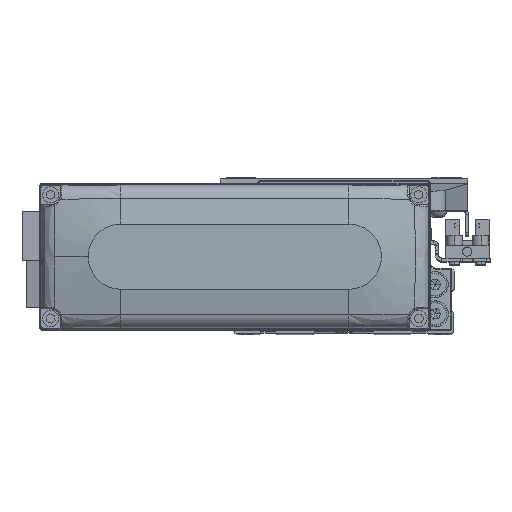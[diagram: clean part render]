
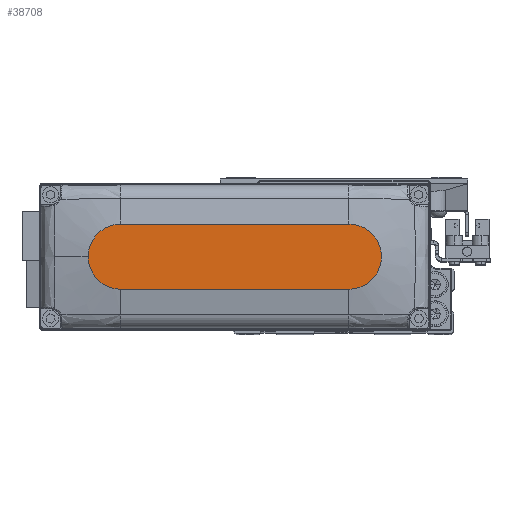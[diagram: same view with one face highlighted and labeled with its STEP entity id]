
A CAD part, top view. The second image highlights one B-rep face of the part: STEP entity #38708.
In plain terms, the highlighted planar face has unit normal (0, 0, 1).
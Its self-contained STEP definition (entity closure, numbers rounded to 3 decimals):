
#405 = ORIENTED_EDGE ( 'NONE', *, *, #5985, .T. ) ;
#851 = FACE_OUTER_BOUND ( 'NONE', #35111, .T. ) ;
#1252 = VECTOR ( 'NONE', #38912, 1000. ) ;
#1816 = LINE ( 'NONE', #14906, #18782 ) ;
#4695 = AXIS2_PLACEMENT_3D ( 'NONE', #14043, #27157, #40303 ) ;
#5322 = DIRECTION ( 'NONE',  ( 1., 0., 0. ) ) ;
#5985 = EDGE_CURVE ( 'NONE', #8429, #19944, #40030, .T. ) ;
#8253 = DIRECTION ( 'NONE',  ( 1., 0., 0. ) ) ;
#8429 = VERTEX_POINT ( 'NONE', #19738 ) ;
#9843 = ORIENTED_EDGE ( 'NONE', *, *, #35255, .T. ) ;
#10727 = DIRECTION ( 'NONE',  ( 1., 0., 0. ) ) ;
#11053 = EDGE_CURVE ( 'NONE', #33271, #8429, #1816, .T. ) ;
#11833 = EDGE_CURVE ( 'NONE', #14498, #33271, #41497, .T. ) ;
#12656 = LINE ( 'NONE', #25765, #1252 ) ;
#13954 = PLANE ( 'NONE',  #39283 ) ;
#14043 = CARTESIAN_POINT ( 'NONE',  ( 35., 0., 28. ) ) ;
#14498 = VERTEX_POINT ( 'NONE', #29358 ) ;
#14667 = VERTEX_POINT ( 'NONE', #37107 ) ;
#14906 = CARTESIAN_POINT ( 'NONE',  ( -35., -10., 28. ) ) ;
#15124 = ORIENTED_EDGE ( 'NONE', *, *, #11053, .T. ) ;
#16669 = AXIS2_PLACEMENT_3D ( 'NONE', #24565, #37733, #8253 ) ;
#18782 = VECTOR ( 'NONE', #28038, 1000. ) ;
#19738 = CARTESIAN_POINT ( 'NONE',  ( 35., -10., 28. ) ) ;
#19944 = VERTEX_POINT ( 'NONE', #21398 ) ;
#21398 = CARTESIAN_POINT ( 'NONE',  ( 45., 0., 28. ) ) ;
#21633 = CARTESIAN_POINT ( 'NONE',  ( -35., 0., 28. ) ) ;
#22931 = AXIS2_PLACEMENT_3D ( 'NONE', #21633, #34775, #5322 ) ;
#23206 = CIRCLE ( 'NONE', #4695, 10. ) ;
#24565 = CARTESIAN_POINT ( 'NONE',  ( 35., 0., 28. ) ) ;
#25765 = CARTESIAN_POINT ( 'NONE',  ( -35., 10., 28. ) ) ;
#26296 = ORIENTED_EDGE ( 'NONE', *, *, #28063, .T. ) ;
#27065 = CARTESIAN_POINT ( 'NONE',  ( 0., 0., 28. ) ) ;
#27157 = DIRECTION ( 'NONE',  ( 0., 0., 1. ) ) ;
#28038 = DIRECTION ( 'NONE',  ( 1., 0., 0. ) ) ;
#28063 = EDGE_CURVE ( 'NONE', #19944, #14667, #23206, .T. ) ;
#28693 = ORIENTED_EDGE ( 'NONE', *, *, #11833, .T. ) ;
#29358 = CARTESIAN_POINT ( 'NONE',  ( -35., 10., 28. ) ) ;
#33271 = VERTEX_POINT ( 'NONE', #42085 ) ;
#34775 = DIRECTION ( 'NONE',  ( 0., 0., 1. ) ) ;
#35111 = EDGE_LOOP ( 'NONE', ( #9843, #28693, #15124, #405, #26296 ) ) ;
#35255 = EDGE_CURVE ( 'NONE', #14667, #14498, #12656, .T. ) ;
#37107 = CARTESIAN_POINT ( 'NONE',  ( 35., 10., 28. ) ) ;
#37733 = DIRECTION ( 'NONE',  ( 0., 0., 1. ) ) ;
#38708 = ADVANCED_FACE ( 'NONE', ( #851 ), #13954, .T. ) ;
#38912 = DIRECTION ( 'NONE',  ( -1., 0., 0. ) ) ;
#39283 = AXIS2_PLACEMENT_3D ( 'NONE', #27065, #40205, #10727 ) ;
#40030 = CIRCLE ( 'NONE', #16669, 10. ) ;
#40205 = DIRECTION ( 'NONE',  ( 0., 0., 1. ) ) ;
#40303 = DIRECTION ( 'NONE',  ( 1., 0., 0. ) ) ;
#41497 = CIRCLE ( 'NONE', #22931, 10. ) ;
#42085 = CARTESIAN_POINT ( 'NONE',  ( -35., -10., 28. ) ) ;
